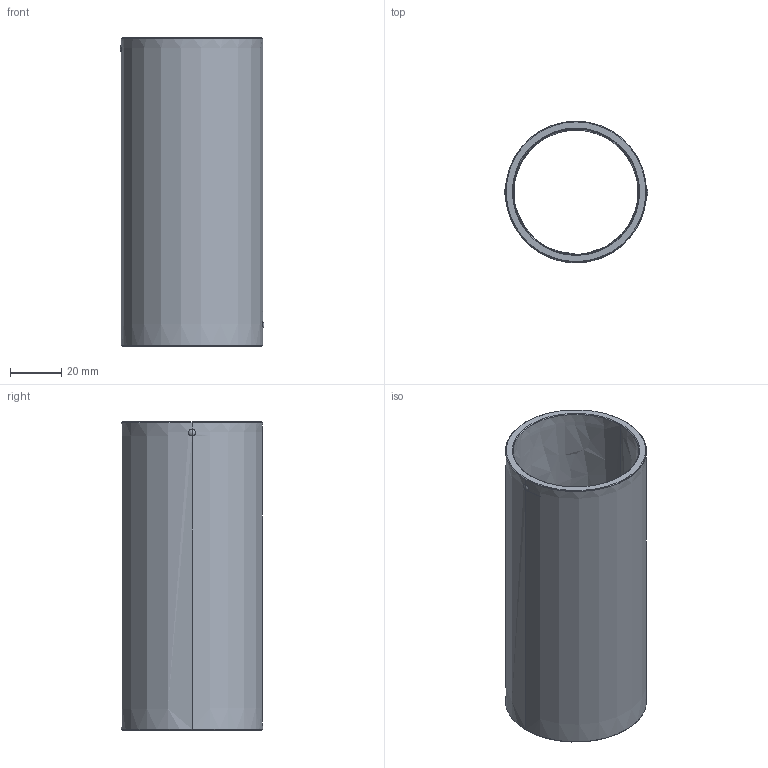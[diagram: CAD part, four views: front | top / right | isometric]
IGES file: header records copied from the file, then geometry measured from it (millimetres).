
Start section: START RECORD GO HERE.
Global section: file name: 730-48x120.igs; native system: DASSAULT SYSTEMES CATIA V5 R20 - www.3ds.com; preprocessor: CATIA Version 5 Release 20 ; author: Utente; organization: NB04-ASUS; date: 20210107.170724; units: millimetre
Bounding box: 55.99 x 55 x 120 mm (x, y, z)
Surface area: 40763.2 mm2 (no closed solid volume)
Topology: 0 solids, 0 shells, 44 faces, 240 edges, 240 vertices
Faces by surface type: revolution 36, plane 8
